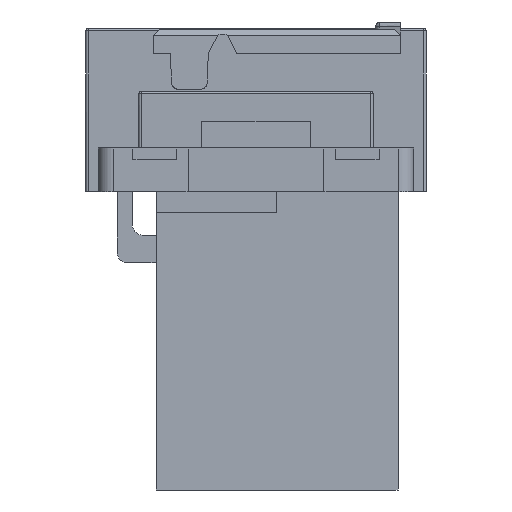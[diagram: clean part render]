
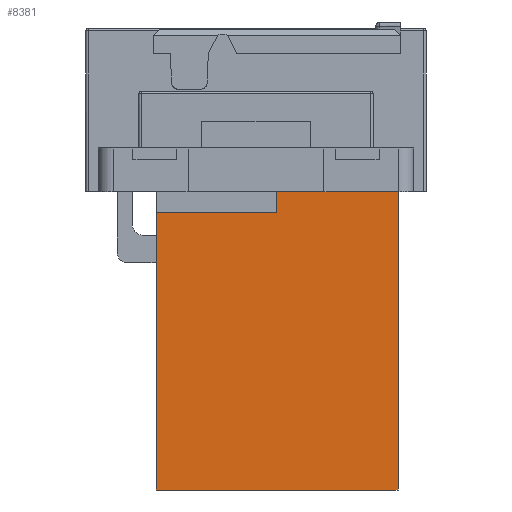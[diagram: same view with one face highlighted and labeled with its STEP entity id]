
A CAD part, left-side view. The second image highlights one B-rep face of the part: STEP entity #8381.
In plain terms, the highlighted free-form (B-spline) face has degree [1, 1] with [2, 2] control points.
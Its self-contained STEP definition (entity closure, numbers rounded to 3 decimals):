
#8233 = EDGE_CURVE('',#8234,#8236,#8238,.T.);
#8234 = VERTEX_POINT('',#8235);
#8235 = CARTESIAN_POINT('',(9.8,14.5,16.1));
#8236 = VERTEX_POINT('',#8237);
#8237 = CARTESIAN_POINT('',(9.8,14.5,8.08));
#8238 = B_SPLINE_CURVE_WITH_KNOTS('',5,(#8239,#8240,#8241,#8242,#8243,
    #8244),.UNSPECIFIED.,.F.,.F.,(6,6),(0.,8.02),
  .PIECEWISE_BEZIER_KNOTS.);
#8239 = CARTESIAN_POINT('',(9.8,14.5,16.1));
#8240 = CARTESIAN_POINT('',(9.8,14.5,14.496));
#8241 = CARTESIAN_POINT('',(9.8,14.5,12.892));
#8242 = CARTESIAN_POINT('',(9.8,14.5,11.288));
#8243 = CARTESIAN_POINT('',(9.8,14.5,9.684));
#8244 = CARTESIAN_POINT('',(9.8,14.5,8.08));
#8285 = EDGE_CURVE('',#8236,#8286,#8288,.T.);
#8286 = VERTEX_POINT('',#8287);
#8287 = CARTESIAN_POINT('',(11.81,14.5,8.08));
#8288 = B_SPLINE_CURVE_WITH_KNOTS('',5,(#8289,#8290,#8291,#8292,#8293,
    #8294),.UNSPECIFIED.,.F.,.F.,(6,6),(0.,2.01),
  .PIECEWISE_BEZIER_KNOTS.);
#8289 = CARTESIAN_POINT('',(9.8,14.5,8.08));
#8290 = CARTESIAN_POINT('',(10.202,14.5,8.08));
#8291 = CARTESIAN_POINT('',(10.604,14.5,8.08));
#8292 = CARTESIAN_POINT('',(11.006,14.5,8.08));
#8293 = CARTESIAN_POINT('',(11.408,14.5,8.08));
#8294 = CARTESIAN_POINT('',(11.81,14.5,8.08));
#8325 = EDGE_CURVE('',#8286,#8326,#8328,.T.);
#8326 = VERTEX_POINT('',#8327);
#8327 = CARTESIAN_POINT('',(11.81,14.5,16.1));
#8328 = B_SPLINE_CURVE_WITH_KNOTS('',5,(#8329,#8330,#8331,#8332,#8333,
    #8334),.UNSPECIFIED.,.F.,.F.,(6,6),(0.,8.02),
  .PIECEWISE_BEZIER_KNOTS.);
#8329 = CARTESIAN_POINT('',(11.81,14.5,8.08));
#8330 = CARTESIAN_POINT('',(11.81,14.5,9.684));
#8331 = CARTESIAN_POINT('',(11.81,14.5,11.288));
#8332 = CARTESIAN_POINT('',(11.81,14.5,12.892));
#8333 = CARTESIAN_POINT('',(11.81,14.5,14.496));
#8334 = CARTESIAN_POINT('',(11.81,14.5,16.1));
#8381 = ADVANCED_FACE('',(#8382),#8484,.T.);
#8382 = FACE_BOUND('',#8383,.T.);
#8383 = EDGE_LOOP('',(#8384,#8385,#8386,#8387,#8398,#8409,#8420,#8431,
    #8442,#8453,#8464,#8475));
#8384 = ORIENTED_EDGE('',*,*,#8233,.T.);
#8385 = ORIENTED_EDGE('',*,*,#8285,.T.);
#8386 = ORIENTED_EDGE('',*,*,#8325,.T.);
#8387 = ORIENTED_EDGE('',*,*,#8388,.T.);
#8388 = EDGE_CURVE('',#8326,#8389,#8391,.T.);
#8389 = VERTEX_POINT('',#8390);
#8390 = CARTESIAN_POINT('',(30.26,14.5,16.1));
#8391 = B_SPLINE_CURVE_WITH_KNOTS('',5,(#8392,#8393,#8394,#8395,#8396,
    #8397),.UNSPECIFIED.,.F.,.F.,(6,6),(0.,18.45),
  .PIECEWISE_BEZIER_KNOTS.);
#8392 = CARTESIAN_POINT('',(11.81,14.5,16.1));
#8393 = CARTESIAN_POINT('',(15.5,14.5,16.1));
#8394 = CARTESIAN_POINT('',(19.19,14.5,16.1));
#8395 = CARTESIAN_POINT('',(22.88,14.5,16.1));
#8396 = CARTESIAN_POINT('',(26.57,14.5,16.1));
#8397 = CARTESIAN_POINT('',(30.26,14.5,16.1));
#8398 = ORIENTED_EDGE('',*,*,#8399,.T.);
#8399 = EDGE_CURVE('',#8389,#8400,#8402,.T.);
#8400 = VERTEX_POINT('',#8401);
#8401 = CARTESIAN_POINT('',(30.26,14.5,0.));
#8402 = B_SPLINE_CURVE_WITH_KNOTS('',5,(#8403,#8404,#8405,#8406,#8407,
    #8408),.UNSPECIFIED.,.F.,.F.,(6,6),(0.,16.1),
  .PIECEWISE_BEZIER_KNOTS.);
#8403 = CARTESIAN_POINT('',(30.26,14.5,16.1));
#8404 = CARTESIAN_POINT('',(30.26,14.5,12.88));
#8405 = CARTESIAN_POINT('',(30.26,14.5,9.66));
#8406 = CARTESIAN_POINT('',(30.26,14.5,6.44));
#8407 = CARTESIAN_POINT('',(30.26,14.5,3.22));
#8408 = CARTESIAN_POINT('',(30.26,14.5,0.));
#8409 = ORIENTED_EDGE('',*,*,#8410,.T.);
#8410 = EDGE_CURVE('',#8400,#8411,#8413,.T.);
#8411 = VERTEX_POINT('',#8412);
#8412 = CARTESIAN_POINT('',(0.,14.5,0.));
#8413 = B_SPLINE_CURVE_WITH_KNOTS('',5,(#8414,#8415,#8416,#8417,#8418,
    #8419),.UNSPECIFIED.,.F.,.F.,(6,6),(0.,30.26),
  .PIECEWISE_BEZIER_KNOTS.);
#8414 = CARTESIAN_POINT('',(30.26,14.5,0.));
#8415 = CARTESIAN_POINT('',(24.208,14.5,0.));
#8416 = CARTESIAN_POINT('',(18.156,14.5,0.));
#8417 = CARTESIAN_POINT('',(12.104,14.5,0.));
#8418 = CARTESIAN_POINT('',(6.052,14.5,0.));
#8419 = CARTESIAN_POINT('',(0.,14.5,0.));
#8420 = ORIENTED_EDGE('',*,*,#8421,.T.);
#8421 = EDGE_CURVE('',#8411,#8422,#8424,.T.);
#8422 = VERTEX_POINT('',#8423);
#8423 = CARTESIAN_POINT('',(0.,14.5,12.63));
#8424 = B_SPLINE_CURVE_WITH_KNOTS('',5,(#8425,#8426,#8427,#8428,#8429,
    #8430),.UNSPECIFIED.,.F.,.F.,(6,6),(0.,12.63),
  .PIECEWISE_BEZIER_KNOTS.);
#8425 = CARTESIAN_POINT('',(0.,14.5,0.));
#8426 = CARTESIAN_POINT('',(0.,14.5,2.526));
#8427 = CARTESIAN_POINT('',(0.,14.5,5.052));
#8428 = CARTESIAN_POINT('',(0.,14.5,7.578));
#8429 = CARTESIAN_POINT('',(0.,14.5,10.104));
#8430 = CARTESIAN_POINT('',(0.,14.5,12.63));
#8431 = ORIENTED_EDGE('',*,*,#8432,.T.);
#8432 = EDGE_CURVE('',#8422,#8433,#8435,.T.);
#8433 = VERTEX_POINT('',#8434);
#8434 = CARTESIAN_POINT('',(2.4,14.5,12.63));
#8435 = B_SPLINE_CURVE_WITH_KNOTS('',5,(#8436,#8437,#8438,#8439,#8440,
    #8441),.UNSPECIFIED.,.F.,.F.,(6,6),(0.,2.4),
  .PIECEWISE_BEZIER_KNOTS.);
#8436 = CARTESIAN_POINT('',(0.,14.5,12.63));
#8437 = CARTESIAN_POINT('',(0.48,14.5,12.63));
#8438 = CARTESIAN_POINT('',(0.96,14.5,12.63));
#8439 = CARTESIAN_POINT('',(1.44,14.5,12.63));
#8440 = CARTESIAN_POINT('',(1.92,14.5,12.63));
#8441 = CARTESIAN_POINT('',(2.4,14.5,12.63));
#8442 = ORIENTED_EDGE('',*,*,#8443,.T.);
#8443 = EDGE_CURVE('',#8433,#8444,#8446,.T.);
#8444 = VERTEX_POINT('',#8445);
#8445 = CARTESIAN_POINT('',(2.4,14.5,15.15));
#8446 = B_SPLINE_CURVE_WITH_KNOTS('',5,(#8447,#8448,#8449,#8450,#8451,
    #8452),.UNSPECIFIED.,.F.,.F.,(6,6),(0.,2.52),
  .PIECEWISE_BEZIER_KNOTS.);
#8447 = CARTESIAN_POINT('',(2.4,14.5,12.63));
#8448 = CARTESIAN_POINT('',(2.4,14.5,13.134));
#8449 = CARTESIAN_POINT('',(2.4,14.5,13.638));
#8450 = CARTESIAN_POINT('',(2.4,14.5,14.142));
#8451 = CARTESIAN_POINT('',(2.4,14.5,14.646));
#8452 = CARTESIAN_POINT('',(2.4,14.5,15.15));
#8453 = ORIENTED_EDGE('',*,*,#8454,.T.);
#8454 = EDGE_CURVE('',#8444,#8455,#8457,.T.);
#8455 = VERTEX_POINT('',#8456);
#8456 = CARTESIAN_POINT('',(0.,14.5,15.15));
#8457 = B_SPLINE_CURVE_WITH_KNOTS('',5,(#8458,#8459,#8460,#8461,#8462,
    #8463),.UNSPECIFIED.,.F.,.F.,(6,6),(0.,2.4),
  .PIECEWISE_BEZIER_KNOTS.);
#8458 = CARTESIAN_POINT('',(2.4,14.5,15.15));
#8459 = CARTESIAN_POINT('',(1.92,14.5,15.15));
#8460 = CARTESIAN_POINT('',(1.44,14.5,15.15));
#8461 = CARTESIAN_POINT('',(0.96,14.5,15.15));
#8462 = CARTESIAN_POINT('',(0.48,14.5,15.15));
#8463 = CARTESIAN_POINT('',(0.,14.5,15.15));
#8464 = ORIENTED_EDGE('',*,*,#8465,.T.);
#8465 = EDGE_CURVE('',#8455,#8466,#8468,.T.);
#8466 = VERTEX_POINT('',#8467);
#8467 = CARTESIAN_POINT('',(0.,14.5,16.1));
#8468 = B_SPLINE_CURVE_WITH_KNOTS('',5,(#8469,#8470,#8471,#8472,#8473,
    #8474),.UNSPECIFIED.,.F.,.F.,(6,6),(0.,0.95),
  .PIECEWISE_BEZIER_KNOTS.);
#8469 = CARTESIAN_POINT('',(0.,14.5,15.15));
#8470 = CARTESIAN_POINT('',(0.,14.5,15.34));
#8471 = CARTESIAN_POINT('',(0.,14.5,15.53));
#8472 = CARTESIAN_POINT('',(0.,14.5,15.72));
#8473 = CARTESIAN_POINT('',(0.,14.5,15.91));
#8474 = CARTESIAN_POINT('',(0.,14.5,16.1));
#8475 = ORIENTED_EDGE('',*,*,#8476,.T.);
#8476 = EDGE_CURVE('',#8466,#8234,#8477,.T.);
#8477 = B_SPLINE_CURVE_WITH_KNOTS('',5,(#8478,#8479,#8480,#8481,#8482,
    #8483),.UNSPECIFIED.,.F.,.F.,(6,6),(0.,9.8),
  .PIECEWISE_BEZIER_KNOTS.);
#8478 = CARTESIAN_POINT('',(0.,14.5,16.1));
#8479 = CARTESIAN_POINT('',(1.96,14.5,16.1));
#8480 = CARTESIAN_POINT('',(3.92,14.5,16.1));
#8481 = CARTESIAN_POINT('',(5.88,14.5,16.1));
#8482 = CARTESIAN_POINT('',(7.84,14.5,16.1));
#8483 = CARTESIAN_POINT('',(9.8,14.5,16.1));
#8484 = B_SPLINE_SURFACE_WITH_KNOTS('',1,1,(
    (#8485,#8486)
    ,(#8487,#8488
    )),.UNSPECIFIED.,.F.,.F.,.F.,(2,2),(2,2),(0.,1.),(0.,1.88),
  .PIECEWISE_BEZIER_KNOTS.);
#8485 = CARTESIAN_POINT('',(0.,14.5,0.));
#8486 = CARTESIAN_POINT('',(30.26,14.5,0.));
#8487 = CARTESIAN_POINT('',(0.,14.5,16.1));
#8488 = CARTESIAN_POINT('',(30.26,14.5,16.1));
